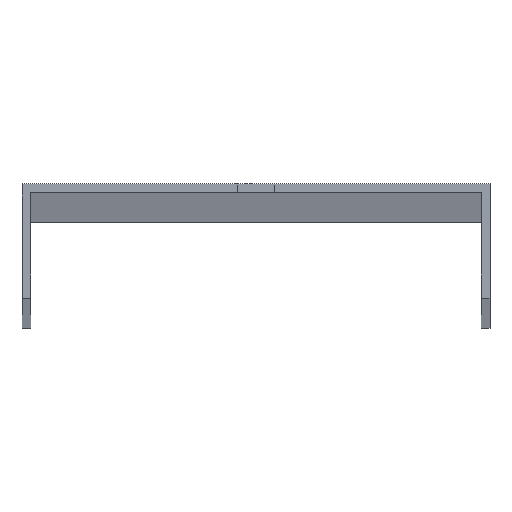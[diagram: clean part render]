
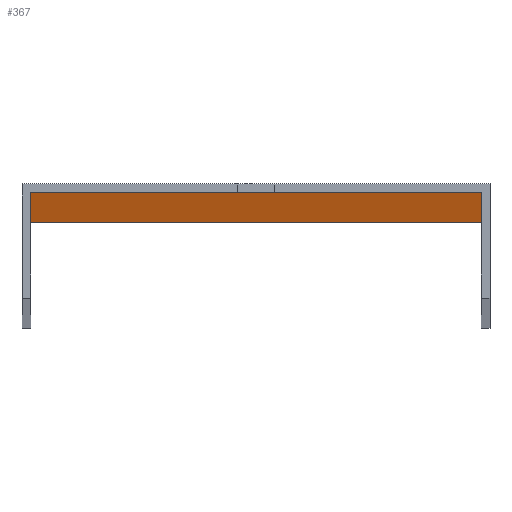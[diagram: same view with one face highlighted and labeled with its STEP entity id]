
A CAD part, top view. The second image highlights one B-rep face of the part: STEP entity #367.
In plain terms, the highlighted planar face has unit normal (0, -1, 0).
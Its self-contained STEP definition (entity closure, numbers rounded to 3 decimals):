
#1 = VERTEX_POINT ( 'NONE', #584 ) ;
#9 = VECTOR ( 'NONE', #169, 1000. ) ;
#12 = ORIENTED_EDGE ( 'NONE', *, *, #115, .F. ) ;
#19 = EDGE_CURVE ( 'NONE', #292, #256, #188, .T. ) ;
#24 = LINE ( 'NONE', #530, #475 ) ;
#29 = CARTESIAN_POINT ( 'NONE',  ( -3.25, -1.5, 1500. ) ) ;
#46 = VECTOR ( 'NONE', #291, 1000. ) ;
#58 = ORIENTED_EDGE ( 'NONE', *, *, #553, .F. ) ;
#62 = CARTESIAN_POINT ( 'NONE',  ( -3.25, -1.5, 1479. ) ) ;
#66 = LINE ( 'NONE', #330, #379 ) ;
#68 = CARTESIAN_POINT ( 'NONE',  ( 3.25, -1.5, 1500. ) ) ;
#72 = CARTESIAN_POINT ( 'NONE',  ( -41., -1.5, 1500. ) ) ;
#77 = EDGE_LOOP ( 'NONE', ( #562, #178, #189, #406 ) ) ;
#78 = LINE ( 'NONE', #29, #9 ) ;
#80 = DIRECTION ( 'NONE',  ( 0., 0., -1. ) ) ;
#85 = LINE ( 'NONE', #192, #232 ) ;
#95 = CARTESIAN_POINT ( 'NONE',  ( -3.25, -1.5, 1488. ) ) ;
#110 = VERTEX_POINT ( 'NONE', #438 ) ;
#111 = VECTOR ( 'NONE', #361, 1000. ) ;
#115 = EDGE_CURVE ( 'NONE', #199, #285, #397, .T. ) ;
#116 = EDGE_LOOP ( 'NONE', ( #58, #524, #12, #456 ) ) ;
#130 = CARTESIAN_POINT ( 'NONE',  ( 39.5, -1.5, 1500. ) ) ;
#147 = EDGE_CURVE ( 'NONE', #110, #278, #78, .T. ) ;
#148 = DIRECTION ( 'NONE',  ( 0., 0., -1. ) ) ;
#151 = DIRECTION ( 'NONE',  ( -1., 0., 0. ) ) ;
#164 = VERTEX_POINT ( 'NONE', #491 ) ;
#169 = DIRECTION ( 'NONE',  ( 0., 0., 1. ) ) ;
#178 = ORIENTED_EDGE ( 'NONE', *, *, #147, .T. ) ;
#179 = DIRECTION ( 'NONE',  ( -1., 0., 0. ) ) ;
#185 = VECTOR ( 'NONE', #148, 1000. ) ;
#188 = LINE ( 'NONE', #130, #472 ) ;
#189 = ORIENTED_EDGE ( 'NONE', *, *, #251, .T. ) ;
#192 = CARTESIAN_POINT ( 'NONE',  ( -41., -1.5, 1479. ) ) ;
#197 = VERTEX_POINT ( 'NONE', #326 ) ;
#199 = VERTEX_POINT ( 'NONE', #500 ) ;
#215 = ORIENTED_EDGE ( 'NONE', *, *, #250, .T. ) ;
#219 = VECTOR ( 'NONE', #474, 1000. ) ;
#232 = VECTOR ( 'NONE', #370, 1000. ) ;
#233 = ORIENTED_EDGE ( 'NONE', *, *, #273, .F. ) ;
#237 = VERTEX_POINT ( 'NONE', #428 ) ;
#242 = DIRECTION ( 'NONE',  ( -1., 0., 0. ) ) ;
#243 = EDGE_CURVE ( 'NONE', #237, #110, #284, .T. ) ;
#249 = DIRECTION ( 'NONE',  ( -1., 0., 0. ) ) ;
#250 = EDGE_CURVE ( 'NONE', #292, #197, #387, .T. ) ;
#251 = EDGE_CURVE ( 'NONE', #278, #164, #422, .T. ) ;
#256 = VERTEX_POINT ( 'NONE', #551 ) ;
#270 = EDGE_CURVE ( 'NONE', #164, #237, #466, .T. ) ;
#273 = EDGE_CURVE ( 'NONE', #256, #1, #66, .T. ) ;
#278 = VERTEX_POINT ( 'NONE', #514 ) ;
#284 = LINE ( 'NONE', #383, #297 ) ;
#285 = VERTEX_POINT ( 'NONE', #430 ) ;
#291 = DIRECTION ( 'NONE',  ( 1., 0., 0. ) ) ;
#292 = VERTEX_POINT ( 'NONE', #560 ) ;
#293 = DIRECTION ( 'NONE',  ( 0., 0., -1. ) ) ;
#297 = VECTOR ( 'NONE', #151, 1000. ) ;
#326 = CARTESIAN_POINT ( 'NONE',  ( -39.5, -1.5, 1500. ) ) ;
#327 = EDGE_CURVE ( 'NONE', #197, #1, #24, .T. ) ;
#330 = CARTESIAN_POINT ( 'NONE',  ( -41., -1.5, -1500. ) ) ;
#344 = FACE_BOUND ( 'NONE', #77, .T. ) ;
#355 = FACE_BOUND ( 'NONE', #116, .T. ) ;
#361 = DIRECTION ( 'NONE',  ( 0., 0., 1. ) ) ;
#363 = CARTESIAN_POINT ( 'NONE',  ( -41., -1.5, 1488. ) ) ;
#367 = ADVANCED_FACE ( 'NONE', ( #355, #392, #344 ), #398, .T. ) ;
#369 = ORIENTED_EDGE ( 'NONE', *, *, #19, .F. ) ;
#370 = DIRECTION ( 'NONE',  ( 1., 0., 0. ) ) ;
#379 = VECTOR ( 'NONE', #249, 1000. ) ;
#383 = CARTESIAN_POINT ( 'NONE',  ( -41., -1.5, -1488. ) ) ;
#386 = CARTESIAN_POINT ( 'NONE',  ( -41., -1.5, -1479. ) ) ;
#387 = LINE ( 'NONE', #511, #501 ) ;
#392 = FACE_OUTER_BOUND ( 'NONE', #480, .T. ) ;
#397 = LINE ( 'NONE', #583, #111 ) ;
#398 = PLANE ( 'NONE',  #519 ) ;
#406 = ORIENTED_EDGE ( 'NONE', *, *, #270, .T. ) ;
#422 = LINE ( 'NONE', #386, #46 ) ;
#428 = CARTESIAN_POINT ( 'NONE',  ( 3.25, -1.5, -1488. ) ) ;
#430 = CARTESIAN_POINT ( 'NONE',  ( 3.25, -1.5, 1488. ) ) ;
#438 = CARTESIAN_POINT ( 'NONE',  ( -3.25, -1.5, -1488. ) ) ;
#449 = DIRECTION ( 'NONE',  ( 0., 0., -1. ) ) ;
#456 = ORIENTED_EDGE ( 'NONE', *, *, #460, .F. ) ;
#460 = EDGE_CURVE ( 'NONE', #523, #199, #85, .T. ) ;
#466 = LINE ( 'NONE', #68, #219 ) ;
#470 = EDGE_CURVE ( 'NONE', #285, #498, #547, .T. ) ;
#472 = VECTOR ( 'NONE', #449, 1000. ) ;
#474 = DIRECTION ( 'NONE',  ( 0., 0., -1. ) ) ;
#475 = VECTOR ( 'NONE', #80, 1000. ) ;
#480 = EDGE_LOOP ( 'NONE', ( #233, #369, #215, #495 ) ) ;
#481 = DIRECTION ( 'NONE',  ( 0., -1., 0. ) ) ;
#491 = CARTESIAN_POINT ( 'NONE',  ( 3.25, -1.5, -1479. ) ) ;
#495 = ORIENTED_EDGE ( 'NONE', *, *, #327, .T. ) ;
#498 = VERTEX_POINT ( 'NONE', #95 ) ;
#500 = CARTESIAN_POINT ( 'NONE',  ( 3.25, -1.5, 1479. ) ) ;
#501 = VECTOR ( 'NONE', #242, 1000. ) ;
#511 = CARTESIAN_POINT ( 'NONE',  ( -41., -1.5, 1500. ) ) ;
#514 = CARTESIAN_POINT ( 'NONE',  ( -3.25, -1.5, -1479. ) ) ;
#519 = AXIS2_PLACEMENT_3D ( 'NONE', #72, #481, #293 ) ;
#523 = VERTEX_POINT ( 'NONE', #62 ) ;
#524 = ORIENTED_EDGE ( 'NONE', *, *, #470, .F. ) ;
#530 = CARTESIAN_POINT ( 'NONE',  ( -39.5, -1.5, 1500. ) ) ;
#547 = LINE ( 'NONE', #363, #548 ) ;
#548 = VECTOR ( 'NONE', #179, 1000. ) ;
#550 = CARTESIAN_POINT ( 'NONE',  ( -3.25, -1.5, 1500. ) ) ;
#551 = CARTESIAN_POINT ( 'NONE',  ( 39.5, -1.5, -1500. ) ) ;
#553 = EDGE_CURVE ( 'NONE', #498, #523, #558, .T. ) ;
#558 = LINE ( 'NONE', #550, #185 ) ;
#560 = CARTESIAN_POINT ( 'NONE',  ( 39.5, -1.5, 1500. ) ) ;
#562 = ORIENTED_EDGE ( 'NONE', *, *, #243, .T. ) ;
#583 = CARTESIAN_POINT ( 'NONE',  ( 3.25, -1.5, 1500. ) ) ;
#584 = CARTESIAN_POINT ( 'NONE',  ( -39.5, -1.5, -1500. ) ) ;
